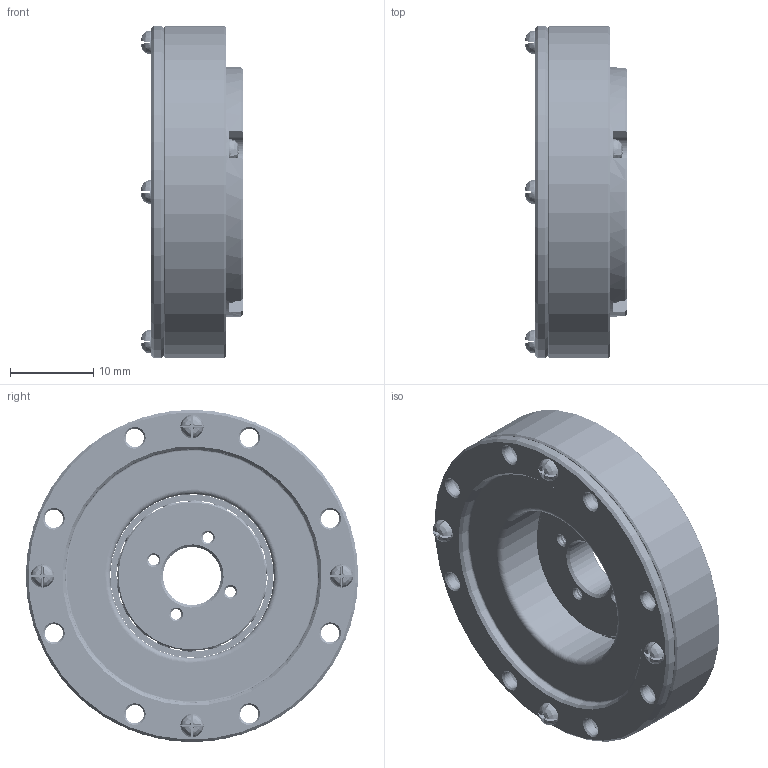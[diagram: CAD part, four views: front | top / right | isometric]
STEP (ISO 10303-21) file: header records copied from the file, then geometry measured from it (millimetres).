
FILE_DESCRIPTION(/* description */ (''),/* implementation_level */ '2;1');
FILE_NAME(/* name */ 'XBD08.stp',/* time_stamp */ '2023-02-20T14:22:26+08:00',/* author */ (''),/* organization */ (''),/* preprocessor_version */ 'ST-DEVELOPER v16',/* originating_system */ 'SIEMENS PLM Software NX 10.0',/* authorisation */ '');
FILE_SCHEMA (('CONFIG_CONTROL_DESIGN'));
Products named in the file (1): XBD08
Bounding box: 12.2 x 39.96 x 39.96 mm (x, y, z)
Volume: 8111.3 mm3; surface area: 13964 mm2
Topology: 82 solids, 82 shells, 1921 faces, 4865 edges, 3070 vertices
Faces by surface type: cylinder 981, plane 330, cone 279, torus 194, bspline 119, sphere 18
Full cylindrical faces by diameter (mm): 2.2 x12, 13.5 x1, 14.22 x1, 15.62 x2, 18.23 x2, 19.63 x1, 19.7 x1, 20.8 x1, 30.6 x1, 40 x1
Entity records: 165659 total; most frequent: CARTESIAN_POINT 122900, ORIENTED_EDGE 9428, DIRECTION 7901, EDGE_CURVE 4714, AXIS2_PLACEMENT_3D 3198, VERTEX_POINT 3040, EDGE_LOOP 2084, ADVANCED_FACE 1921
